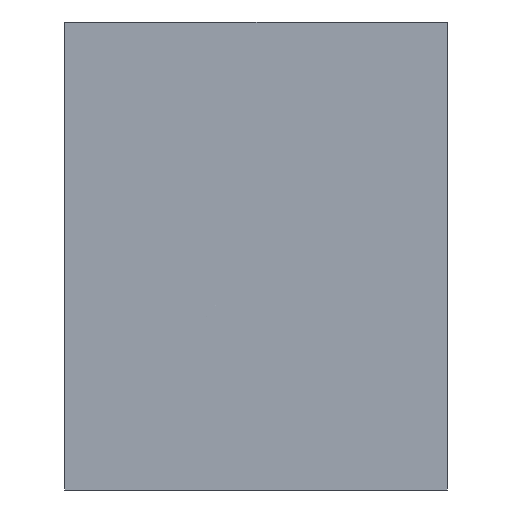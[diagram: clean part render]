
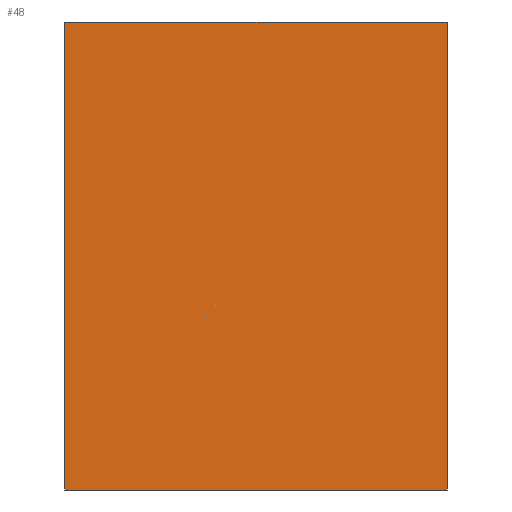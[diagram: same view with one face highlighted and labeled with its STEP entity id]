
A CAD part, left-side view. The second image highlights one B-rep face of the part: STEP entity #48.
In plain terms, the highlighted planar face has unit normal (-1, 0, 0).
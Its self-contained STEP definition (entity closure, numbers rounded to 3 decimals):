
#48=ADVANCED_FACE('',(#83),#538,.T.);
#83=FACE_OUTER_BOUND('',#122,.T.);
#122=EDGE_LOOP('',(#262,#263,#264,#265));
#262=ORIENTED_EDGE('',*,*,#368,.T.);
#263=ORIENTED_EDGE('',*,*,#361,.T.);
#264=ORIENTED_EDGE('',*,*,#369,.F.);
#265=ORIENTED_EDGE('',*,*,#366,.F.);
#361=EDGE_CURVE('',#506,#509,#407,.T.);
#366=EDGE_CURVE('',#512,#513,#412,.T.);
#368=EDGE_CURVE('',#512,#506,#414,.T.);
#369=EDGE_CURVE('',#513,#509,#415,.T.);
#407=B_SPLINE_CURVE_WITH_KNOTS('',1,(#1010,#1011),.UNSPECIFIED.,.F.,.F.,
(2,2),(0.,100.),.UNSPECIFIED.);
#412=B_SPLINE_CURVE_WITH_KNOTS('',1,(#1020,#1021),.UNSPECIFIED.,.F.,.F.,
(2,2),(0.,100.),.UNSPECIFIED.);
#414=B_SPLINE_CURVE_WITH_KNOTS('',1,(#1024,#1025),.UNSPECIFIED.,.F.,.F.,
(2,2),(-45.,0.),.UNSPECIFIED.);
#415=B_SPLINE_CURVE_WITH_KNOTS('',1,(#1026,#1027),.UNSPECIFIED.,.F.,.F.,
(2,2),(-45.,0.),.UNSPECIFIED.);
#506=VERTEX_POINT('',#808);
#509=VERTEX_POINT('',#811);
#512=VERTEX_POINT('',#814);
#513=VERTEX_POINT('',#815);
#538=PLANE('',#593);
#593=AXIS2_PLACEMENT_3D('',#725,#615,$);
#615=DIRECTION('',(-1.,0.,0.));
#725=CARTESIAN_POINT('',(3382.265,480.399,47.24));
#808=CARTESIAN_POINT('',(3382.265,525.399,47.24));
#811=CARTESIAN_POINT('',(3382.265,525.399,-7.76));
#814=CARTESIAN_POINT('',(3382.265,480.399,47.24));
#815=CARTESIAN_POINT('',(3382.265,480.399,-7.76));
#1010=CARTESIAN_POINT('',(3382.265,525.399,47.24));
#1011=CARTESIAN_POINT('',(3382.265,525.399,-7.76));
#1020=CARTESIAN_POINT('',(3382.265,480.399,47.24));
#1021=CARTESIAN_POINT('',(3382.265,480.399,-7.76));
#1024=CARTESIAN_POINT('',(3382.265,480.399,47.24));
#1025=CARTESIAN_POINT('',(3382.265,525.399,47.24));
#1026=CARTESIAN_POINT('',(3382.265,480.399,-7.76));
#1027=CARTESIAN_POINT('',(3382.265,525.399,-7.76));
